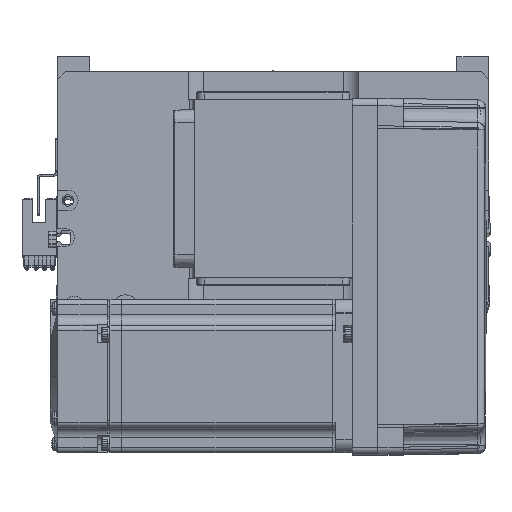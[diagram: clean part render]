
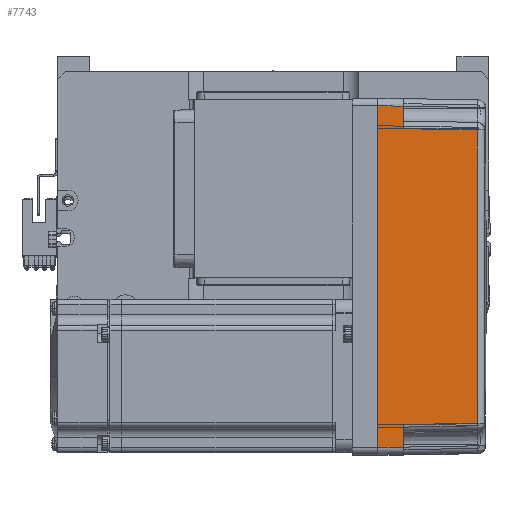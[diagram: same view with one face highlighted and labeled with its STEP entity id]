
A CAD part, top view. The second image highlights one B-rep face of the part: STEP entity #7743.
In plain terms, the highlighted planar face has unit normal (0.018, 0, 1) as drawn and (0, 1, 0.017) by its records, which use the part's own axes.
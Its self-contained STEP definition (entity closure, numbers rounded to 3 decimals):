
#923 = VECTOR ( 'NONE', #55929, 1000. ) ;
#1341 = EDGE_LOOP ( 'NONE', ( #58134, #51551, #40026, #5524, #7160, #47503, #40755, #15625 ) ) ;
#1663 = CARTESIAN_POINT ( 'NONE',  ( 70., 36., 0. ) ) ;
#4085 = CARTESIAN_POINT ( 'NONE',  ( -67., 36., 0. ) ) ;
#4214 = CARTESIAN_POINT ( 'NONE',  ( 57.495, 35.32, 38.985 ) ) ;
#5097 = DIRECTION ( 'NONE',  ( 0.017, -0.017, 1. ) ) ;
#5186 = EDGE_CURVE ( 'NONE', #16070, #53218, #49999, .T. ) ;
#5524 = ORIENTED_EDGE ( 'NONE', *, *, #42097, .T. ) ;
#7160 = ORIENTED_EDGE ( 'NONE', *, *, #14990, .T. ) ;
#7743 = ADVANCED_FACE ( 'NONE', ( #21988 ), #11541, .T. ) ;
#8669 = CARTESIAN_POINT ( 'NONE',  ( 58., 35.825, 10. ) ) ;
#9279 = VERTEX_POINT ( 'NONE', #20135 ) ;
#10055 = DIRECTION ( 'NONE',  ( 1., 0., 0. ) ) ;
#10071 = EDGE_CURVE ( 'NONE', #11110, #47986, #60249, .T. ) ;
#10089 = LINE ( 'NONE', #44662, #38347 ) ;
#10558 = LINE ( 'NONE', #4214, #41000 ) ;
#11110 = VERTEX_POINT ( 'NONE', #61203 ) ;
#11541 = PLANE ( 'NONE',  #35552 ) ;
#12266 = CARTESIAN_POINT ( 'NONE',  ( -57.495, 35.32, 38.985 ) ) ;
#14990 = EDGE_CURVE ( 'NONE', #9279, #21769, #10558, .T. ) ;
#15625 = ORIENTED_EDGE ( 'NONE', *, *, #26924, .F. ) ;
#16070 = VERTEX_POINT ( 'NONE', #28511 ) ;
#16350 = DIRECTION ( 'NONE',  ( 0., -0.017, 1. ) ) ;
#16662 = CARTESIAN_POINT ( 'NONE',  ( 19.165, 35.316, 39.181 ) ) ;
#17067 = VECTOR ( 'NONE', #10055, 1000. ) ;
#19758 = VERTEX_POINT ( 'NONE', #35437 ) ;
#20135 = CARTESIAN_POINT ( 'NONE',  ( 57.495, 35.32, 38.985 ) ) ;
#21769 = VERTEX_POINT ( 'NONE', #8669 ) ;
#21988 = FACE_OUTER_BOUND ( 'NONE', #1341, .T. ) ;
#22976 = DIRECTION ( 'NONE',  ( -0.017, -0.017, 1. ) ) ;
#23902 = CARTESIAN_POINT ( 'NONE',  ( 66.826, 35.825, 10. ) ) ;
#24164 = CARTESIAN_POINT ( 'NONE',  ( 70., 35.825, 10. ) ) ;
#24273 = EDGE_CURVE ( 'NONE', #53218, #11110, #58658, .T. ) ;
#24370 = LINE ( 'NONE', #58395, #35512 ) ;
#25087 = DIRECTION ( 'NONE',  ( 0., 1., 0.017 ) ) ;
#25390 = DIRECTION ( 'NONE',  ( 1., 0., 0. ) ) ;
#26924 = EDGE_CURVE ( 'NONE', #16070, #19758, #10089, .T. ) ;
#27086 = VERTEX_POINT ( 'NONE', #23902 ) ;
#28511 = CARTESIAN_POINT ( 'NONE',  ( -67., 36., 0. ) ) ;
#31512 = EDGE_CURVE ( 'NONE', #19758, #27086, #48583, .T. ) ;
#35347 = CARTESIAN_POINT ( 'NONE',  ( -19.165, 35.316, 39.181 ) ) ;
#35437 = CARTESIAN_POINT ( 'NONE',  ( 67., 36., 0. ) ) ;
#35512 = VECTOR ( 'NONE', #25390, 1000. ) ;
#35552 = AXIS2_PLACEMENT_3D ( 'NONE', #1663, #25087, #16350 ) ;
#36534 = CARTESIAN_POINT ( 'NONE',  ( 67.001, 36.001, -0.052 ) ) ;
#37645 = DIRECTION ( 'NONE',  ( 0.017, 0.017, -1. ) ) ;
#38347 = VECTOR ( 'NONE', #58771, 1000. ) ;
#40026 = ORIENTED_EDGE ( 'NONE', *, *, #10071, .T. ) ;
#40520 = CARTESIAN_POINT ( 'NONE',  ( -57.495, 35.32, 38.985 ) ) ;
#40755 = ORIENTED_EDGE ( 'NONE', *, *, #31512, .F. ) ;
#41000 = VECTOR ( 'NONE', #37645, 1000. ) ;
#41916 = EDGE_CURVE ( 'NONE', #21769, #27086, #24370, .T. ) ;
#42097 = EDGE_CURVE ( 'NONE', #47986, #9279, #45864, .T. ) ;
#44662 = CARTESIAN_POINT ( 'NONE',  ( 0., 36., 0. ) ) ;
#45864 = B_SPLINE_CURVE_WITH_KNOTS ( 'NONE', 3,
 ( #12266, #35347, #16662, #49619 ),
 .UNSPECIFIED., .F., .F.,
 ( 4, 4 ),
 ( 0., 1. ),
 .UNSPECIFIED. ) ;
#47107 = VECTOR ( 'NONE', #22976, 1000. ) ;
#47503 = ORIENTED_EDGE ( 'NONE', *, *, #41916, .T. ) ;
#47986 = VERTEX_POINT ( 'NONE', #40520 ) ;
#48583 = LINE ( 'NONE', #36534, #47107 ) ;
#49619 = CARTESIAN_POINT ( 'NONE',  ( 57.495, 35.32, 38.985 ) ) ;
#49999 = LINE ( 'NONE', #4085, #55201 ) ;
#50102 = CARTESIAN_POINT ( 'NONE',  ( -66.826, 35.825, 10. ) ) ;
#51551 = ORIENTED_EDGE ( 'NONE', *, *, #24273, .T. ) ;
#53218 = VERTEX_POINT ( 'NONE', #50102 ) ;
#55201 = VECTOR ( 'NONE', #5097, 1000. ) ;
#55929 = DIRECTION ( 'NONE',  ( 0.017, -0.017, 1. ) ) ;
#58134 = ORIENTED_EDGE ( 'NONE', *, *, #5186, .T. ) ;
#58395 = CARTESIAN_POINT ( 'NONE',  ( 70., 35.825, 10. ) ) ;
#58658 = LINE ( 'NONE', #24164, #17067 ) ;
#58771 = DIRECTION ( 'NONE',  ( 1., 0., 0. ) ) ;
#60068 = CARTESIAN_POINT ( 'NONE',  ( -58., 35.825, 10. ) ) ;
#60249 = LINE ( 'NONE', #60068, #923 ) ;
#61203 = CARTESIAN_POINT ( 'NONE',  ( -58., 35.825, 10. ) ) ;
